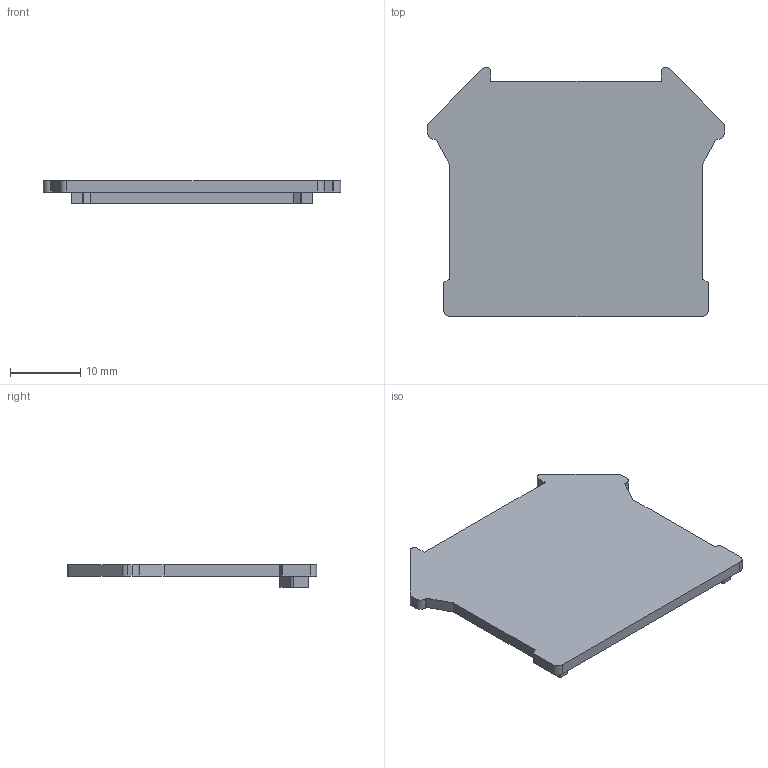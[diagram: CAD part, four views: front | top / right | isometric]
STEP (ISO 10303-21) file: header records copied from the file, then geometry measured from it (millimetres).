
FILE_DESCRIPTION((''),'2;1');
FILE_NAME('D-PC2_5-01P-1Y-00A_H_','2020-06-04T',('Administrator'),(''),'PRO/ENGINEER BY PARAMETRIC TECHNOLOGY CORPORATION, 2012360','PRO/ENGINEER BY PARAMETRIC TECHNOLOGY CORPORATION, 2012360','');
FILE_SCHEMA(('CONFIG_CONTROL_DESIGN'));
Length unit declared in the file: millimetre
Products named in the file (1): D-PC2_5-01P-1Y-00A_H_
Bounding box: 42.5 x 35.63 x 3.2 mm (x, y, z)
Volume: 2070.7 mm3; surface area: 2870.8 mm2
Topology: 1 solids, 1 shells, 49 faces, 138 edges, 92 vertices
Faces by surface type: plane 33, cylinder 16
Entity records: 1622 total; most frequent: CARTESIAN_POINT 279, ORIENTED_EDGE 276, DIRECTION 268, EDGE_CURVE 138, VECTOR 106, LINE 106, VERTEX_POINT 92, AXIS2_PLACEMENT_3D 81
